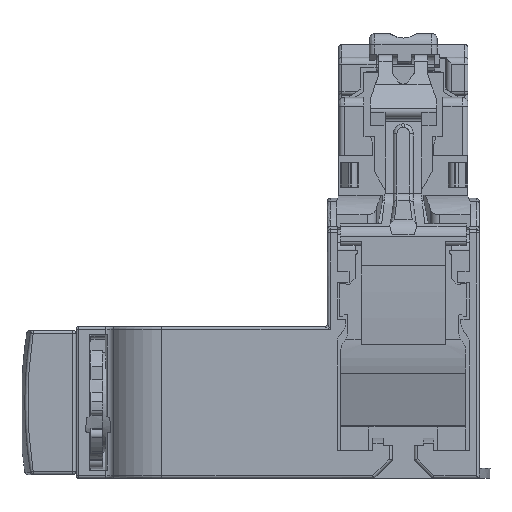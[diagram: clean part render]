
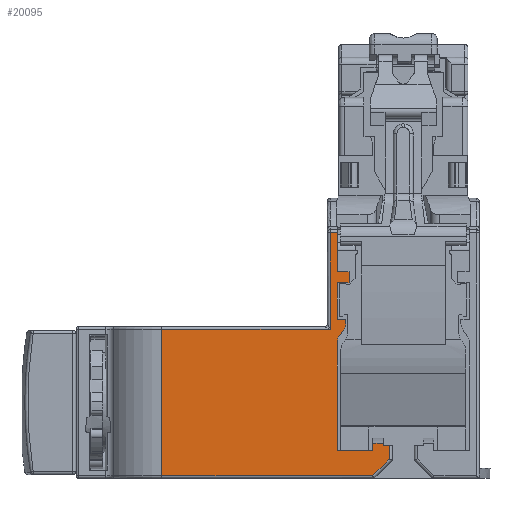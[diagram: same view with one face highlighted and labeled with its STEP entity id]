
A CAD part, front view. The second image highlights one B-rep face of the part: STEP entity #20095.
In plain terms, the highlighted planar face has unit normal (0, -1, 0).
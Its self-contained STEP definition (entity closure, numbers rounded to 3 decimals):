
#2895=DIRECTION('',(0.707,0.,0.707));
#2896=VECTOR('',#2895,2.138);
#2897=CARTESIAN_POINT('',(24.077,-8.731,-38.99));
#2898=LINE('',#2897,#2896);
#2899=DIRECTION('',(0.,0.,1.));
#2900=VECTOR('',#2899,3.506);
#2901=CARTESIAN_POINT('',(20.888,-8.731,-20.58));
#2902=LINE('',#2901,#2900);
#2903=DIRECTION('',(-1.,0.,0.));
#2904=VECTOR('',#2903,1.05);
#2905=CARTESIAN_POINT('',(21.938,-8.731,-20.58));
#2906=LINE('',#2905,#2904);
#2907=DIRECTION('',(0.,0.,1.));
#2908=VECTOR('',#2907,1.);
#2909=CARTESIAN_POINT('',(21.938,-8.731,-21.58));
#2910=LINE('',#2909,#2908);
#2911=DIRECTION('',(1.,0.,0.));
#2912=VECTOR('',#2911,1.05);
#2913=CARTESIAN_POINT('',(20.888,-8.731,-21.58));
#2914=LINE('',#2913,#2912);
#2915=DIRECTION('',(0.,0.,1.));
#2916=VECTOR('',#2915,3.3);
#2917=CARTESIAN_POINT('',(20.888,-8.731,-24.88));
#2918=LINE('',#2917,#2916);
#2919=DIRECTION('',(-1.,0.,0.));
#2920=VECTOR('',#2919,0.75);
#2921=CARTESIAN_POINT('',(21.638,-8.731,-24.88));
#2922=LINE('',#2921,#2920);
#2923=DIRECTION('',(0.,0.,1.));
#2924=VECTOR('',#2923,0.367);
#2925=CARTESIAN_POINT('',(21.638,-8.731,
-25.247));
#2926=LINE('',#2925,#2924);
#2927=CARTESIAN_POINT('',(20.638,-8.731,
-25.247));
#2928=DIRECTION('',(0.,-1.,0.));
#2929=DIRECTION('',(0.8,0.,-0.6));
#2930=AXIS2_PLACEMENT_3D('',#2927,#2928,#2929);
#2932=DIRECTION('',(0.6,0.,0.8));
#2933=VECTOR('',#2932,0.583);
#2934=CARTESIAN_POINT('',(21.088,-8.731,
-26.313));
#2935=LINE('',#2934,#2933);
#2936=CARTESIAN_POINT('',(21.888,-8.731,
-26.913));
#2937=DIRECTION('',(0.,1.,0.));
#2938=DIRECTION('',(-1.,0.,0.));
#2939=AXIS2_PLACEMENT_3D('',#2936,#2937,#2938);
#2941=DIRECTION('',(0.,0.,1.));
#2942=VECTOR('',#2941,9.817);
#2943=CARTESIAN_POINT('',(20.888,-8.731,-36.73));
#2944=LINE('',#2943,#2942);
#2945=DIRECTION('',(-1.,0.,0.));
#2946=VECTOR('',#2945,3.2);
#2947=CARTESIAN_POINT('',(24.088,-8.731,-36.73));
#2948=LINE('',#2947,#2946);
#2949=DIRECTION('',(0.,0.,-1.));
#2950=VECTOR('',#2949,0.675);
#2951=CARTESIAN_POINT('',(24.088,-8.731,-36.055));
#2952=LINE('',#2951,#2950);
#2953=DIRECTION('',(0.,0.,1.));
#2954=VECTOR('',#2953,0.2);
#2955=CARTESIAN_POINT('',(25.038,-8.731,-36.255));
#2956=LINE('',#2955,#2954);
#2957=DIRECTION('',(-1.,0.,0.));
#2958=VECTOR('',#2957,0.551);
#2959=CARTESIAN_POINT('',(25.589,-8.731,-36.255));
#2960=LINE('',#2959,#2958);
#2982=CARTESIAN_POINT('',(25.589,-8.731,
-37.479));
#2990=DIRECTION('',(0.,0.,-1.));
#2991=VECTOR('',#2990,1.223);
#2992=CARTESIAN_POINT('',(25.589,-8.731,-36.255));
#2993=LINE('',#2992,#2991);
#3025=DIRECTION('',(1.,0.,0.));
#3026=VECTOR('',#3025,0.95);
#3027=CARTESIAN_POINT('',(24.088,-8.731,-36.055));
#3028=LINE('',#3027,#3026);
#4022=DIRECTION('',(1.,0.,0.));
#4023=VECTOR('',#4022,0.65);
#4024=CARTESIAN_POINT('',(20.238,-8.731,
-17.074));
#4025=LINE('',#4024,#4023);
#7195=DIRECTION('',(1.,0.,0.));
#7196=VECTOR('',#7195,15.202);
#7197=CARTESIAN_POINT('',(5.035,-8.731,-25.79));
#7198=LINE('',#7197,#7196);
#7239=DIRECTION('',(0.,0.,1.));
#7240=VECTOR('',#7239,13.2);
#7241=CARTESIAN_POINT('',(5.035,-8.731,-38.99));
#7242=LINE('',#7241,#7240);
#9330=DIRECTION('',(-1.,0.,0.));
#9331=VECTOR('',#9330,19.042);
#9332=CARTESIAN_POINT('',(24.077,-8.731,-38.99));
#9333=LINE('',#9332,#9331);
#10180=DIRECTION('',(0.,0.,1.));
#10181=VECTOR('',#10180,8.716);
#10182=CARTESIAN_POINT('',(20.238,-8.731,-25.79));
#10183=LINE('',#10182,#10181);
#12810=CARTESIAN_POINT('',(20.888,-8.731,-21.58));
#12812=VERTEX_POINT('',#12810);
#12986=CARTESIAN_POINT('',(24.088,-8.731,-36.73));
#12988=VERTEX_POINT('',#12986);
#12990=CARTESIAN_POINT('',(21.438,-8.731,
-25.847));
#12991=CARTESIAN_POINT('',(21.638,-8.731,
-25.247));
#12992=VERTEX_POINT('',#12990);
#12993=VERTEX_POINT('',#12991);
#13026=CARTESIAN_POINT('',(21.638,-8.731,-24.88));
#13027=VERTEX_POINT('',#13026);
#13046=CARTESIAN_POINT('',(20.888,-8.731,-24.88));
#13047=VERTEX_POINT('',#13046);
#13115=CARTESIAN_POINT('',(21.938,-8.731,-20.58));
#13117=VERTEX_POINT('',#13115);
#13131=CARTESIAN_POINT('',(21.938,-8.731,-21.58));
#13132=VERTEX_POINT('',#13131);
#13141=CARTESIAN_POINT('',(20.888,-8.731,-20.58));
#13142=VERTEX_POINT('',#13141);
#13179=CARTESIAN_POINT('',(20.888,-8.731,
-17.074));
#13180=VERTEX_POINT('',#13179);
#13193=CARTESIAN_POINT('',(20.238,-8.731,
-17.074));
#13194=VERTEX_POINT('',#13193);
#13203=CARTESIAN_POINT('',(20.238,-8.731,-25.79));
#13204=VERTEX_POINT('',#13203);
#13242=CARTESIAN_POINT('',(5.035,-8.731,-25.79));
#13243=VERTEX_POINT('',#13242);
#13244=CARTESIAN_POINT('',(5.035,-8.731,-38.99));
#13245=VERTEX_POINT('',#13244);
#13270=CARTESIAN_POINT('',(24.077,-8.731,-38.99));
#13271=VERTEX_POINT('',#13270);
#13393=VERTEX_POINT('',#2982);
#13591=CARTESIAN_POINT('',(24.088,-8.731,-36.055));
#13592=CARTESIAN_POINT('',(25.038,-8.731,-36.055));
#13593=VERTEX_POINT('',#13591);
#13594=VERTEX_POINT('',#13592);
#13614=CARTESIAN_POINT('',(20.888,-8.731,-36.73));
#13615=CARTESIAN_POINT('',(20.888,-8.731,
-26.913));
#13616=VERTEX_POINT('',#13614);
#13617=VERTEX_POINT('',#13615);
#14921=CARTESIAN_POINT('',(25.038,-8.731,-36.255));
#14922=VERTEX_POINT('',#14921);
#14933=CARTESIAN_POINT('',(21.088,-8.731,
-26.313));
#14934=VERTEX_POINT('',#14933);
#15006=CARTESIAN_POINT('',(25.589,-8.731,-36.255));
#15007=VERTEX_POINT('',#15006);
#20044=CARTESIAN_POINT('',(33.688,-8.731,
-17.074));
#20045=DIRECTION('',(0.,1.,0.));
#20046=DIRECTION('',(0.,0.,1.));
#20047=AXIS2_PLACEMENT_3D('',#20044,#20045,#20046);
#20048=PLANE('',#20047);
#20050=ORIENTED_EDGE('',*,*,#20049,.F.);
#20052=ORIENTED_EDGE('',*,*,#20051,.T.);
#20054=ORIENTED_EDGE('',*,*,#20053,.T.);
#20056=ORIENTED_EDGE('',*,*,#20055,.T.);
#20058=ORIENTED_EDGE('',*,*,#20057,.T.);
#20060=ORIENTED_EDGE('',*,*,#20059,.T.);
#20062=ORIENTED_EDGE('',*,*,#20061,.F.);
#20064=ORIENTED_EDGE('',*,*,#20063,.F.);
#20066=ORIENTED_EDGE('',*,*,#20065,.F.);
#20068=ORIENTED_EDGE('',*,*,#20067,.F.);
#20070=ORIENTED_EDGE('',*,*,#20069,.F.);
#20072=ORIENTED_EDGE('',*,*,#20071,.F.);
#20074=ORIENTED_EDGE('',*,*,#20073,.F.);
#20076=ORIENTED_EDGE('',*,*,#20075,.F.);
#20078=ORIENTED_EDGE('',*,*,#20077,.F.);
#20080=ORIENTED_EDGE('',*,*,#20079,.F.);
#20082=ORIENTED_EDGE('',*,*,#20081,.F.);
#20083=ORIENTED_EDGE('',*,*,#20019,.F.);
#20084=ORIENTED_EDGE('',*,*,#20035,.F.);
#20086=ORIENTED_EDGE('',*,*,#20085,.T.);
#20088=ORIENTED_EDGE('',*,*,#20087,.F.);
#20090=ORIENTED_EDGE('',*,*,#20089,.F.);
#20092=ORIENTED_EDGE('',*,*,#20091,.T.);
#20093=EDGE_LOOP('',(#20050,#20052,#20054,#20056,#20058,#20060,#20062,#20064,
#20066,#20068,#20070,#20072,#20074,#20076,#20078,#20080,#20082,#20083,#20084,
#20086,#20088,#20090,#20092));
#20094=FACE_OUTER_BOUND('',#20093,.F.);
#20095=ADVANCED_FACE('',(#20094),#20048,.F.);
#2931=CIRCLE('',#2930,1.);
#2940=CIRCLE('',#2939,1.);
#20019=EDGE_CURVE('',#12988,#13616,#2948,.T.);
#20035=EDGE_CURVE('',#13593,#12988,#2952,.T.);
#20049=EDGE_CURVE('',#13271,#13393,#2898,.T.);
#20051=EDGE_CURVE('',#13271,#13245,#9333,.T.);
#20053=EDGE_CURVE('',#13245,#13243,#7242,.T.);
#20055=EDGE_CURVE('',#13243,#13204,#7198,.T.);
#20057=EDGE_CURVE('',#13204,#13194,#10183,.T.);
#20059=EDGE_CURVE('',#13194,#13180,#4025,.T.);
#20061=EDGE_CURVE('',#13142,#13180,#2902,.T.);
#20063=EDGE_CURVE('',#13117,#13142,#2906,.T.);
#20065=EDGE_CURVE('',#13132,#13117,#2910,.T.);
#20067=EDGE_CURVE('',#12812,#13132,#2914,.T.);
#20069=EDGE_CURVE('',#13047,#12812,#2918,.T.);
#20071=EDGE_CURVE('',#13027,#13047,#2922,.T.);
#20073=EDGE_CURVE('',#12993,#13027,#2926,.T.);
#20075=EDGE_CURVE('',#12992,#12993,#2931,.T.);
#20077=EDGE_CURVE('',#14934,#12992,#2935,.T.);
#20079=EDGE_CURVE('',#13617,#14934,#2940,.T.);
#20081=EDGE_CURVE('',#13616,#13617,#2944,.T.);
#20085=EDGE_CURVE('',#13593,#13594,#3028,.T.);
#20087=EDGE_CURVE('',#14922,#13594,#2956,.T.);
#20089=EDGE_CURVE('',#15007,#14922,#2960,.T.);
#20091=EDGE_CURVE('',#15007,#13393,#2993,.T.);
